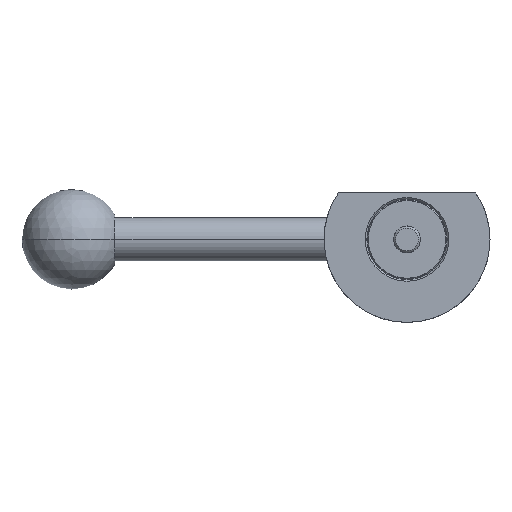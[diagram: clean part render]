
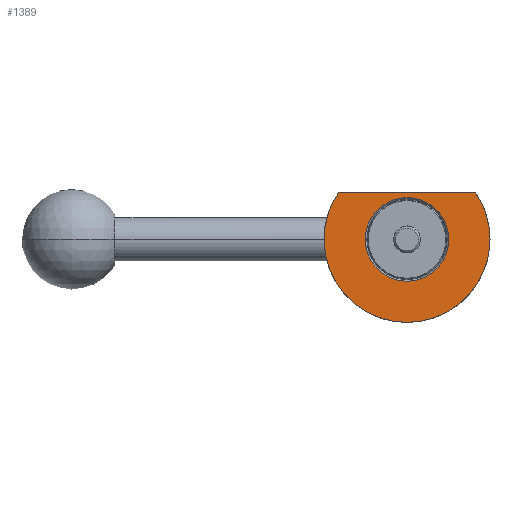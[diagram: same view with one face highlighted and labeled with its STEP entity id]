
A CAD part, front view. The second image highlights one B-rep face of the part: STEP entity #1389.
In plain terms, the highlighted planar face has unit normal (0, -1, 0).
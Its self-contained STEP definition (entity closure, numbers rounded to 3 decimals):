
#59 = DIRECTION ( 'NONE',  ( 0., 1., 0. ) ) ;
#72 = VERTEX_POINT ( 'NONE', #1268 ) ;
#88 = EDGE_CURVE ( 'NONE', #1951, #1200, #1661, .T. ) ;
#157 = ORIENTED_EDGE ( 'NONE', *, *, #88, .T. ) ;
#166 = CARTESIAN_POINT ( 'NONE',  ( 0., -12., 0. ) ) ;
#171 = DIRECTION ( 'NONE',  ( 0., 1., 0. ) ) ;
#235 = ORIENTED_EDGE ( 'NONE', *, *, #702, .T. ) ;
#315 = DIRECTION ( 'NONE',  ( -1., 0., 0. ) ) ;
#353 = CIRCLE ( 'NONE', #1811, 12.6 ) ;
#372 = EDGE_CURVE ( 'NONE', #407, #443, #716, .T. ) ;
#377 = CARTESIAN_POINT ( 'NONE',  ( 0., -12., 0. ) ) ;
#381 = AXIS2_PLACEMENT_3D ( 'NONE', #1922, #59, #991 ) ;
#384 = LINE ( 'NONE', #1031, #2004 ) ;
#393 = EDGE_CURVE ( 'NONE', #72, #407, #1325, .T. ) ;
#407 = VERTEX_POINT ( 'NONE', #507 ) ;
#443 = VERTEX_POINT ( 'NONE', #1500 ) ;
#472 = DIRECTION ( 'NONE',  ( 0., 1., 0. ) ) ;
#507 = CARTESIAN_POINT ( 'NONE',  ( 25., -12., 0. ) ) ;
#546 = EDGE_CURVE ( 'NONE', #443, #1705, #1220, .T. ) ;
#601 = ORIENTED_EDGE ( 'NONE', *, *, #546, .F. ) ;
#647 = CARTESIAN_POINT ( 'NONE',  ( -12.6, -12., 0. ) ) ;
#702 = EDGE_CURVE ( 'NONE', #72, #1705, #384, .T. ) ;
#716 = CIRCLE ( 'NONE', #1254, 25. ) ;
#733 = AXIS2_PLACEMENT_3D ( 'NONE', #1891, #472, #315 ) ;
#819 = EDGE_CURVE ( 'NONE', #1200, #1951, #353, .T. ) ;
#928 = PLANE ( 'NONE',  #1526 ) ;
#950 = CARTESIAN_POINT ( 'NONE',  ( 12.6, -12., 0. ) ) ;
#991 = DIRECTION ( 'NONE',  ( -1., 0., 0. ) ) ;
#1031 = CARTESIAN_POINT ( 'NONE',  ( -12.6, -12., 14. ) ) ;
#1141 = CARTESIAN_POINT ( 'NONE',  ( 0., -12., 0. ) ) ;
#1176 = ORIENTED_EDGE ( 'NONE', *, *, #819, .T. ) ;
#1200 = VERTEX_POINT ( 'NONE', #950 ) ;
#1220 = CIRCLE ( 'NONE', #1454, 25. ) ;
#1254 = AXIS2_PLACEMENT_3D ( 'NONE', #377, #1302, #1602 ) ;
#1268 = CARTESIAN_POINT ( 'NONE',  ( 20.712, -12., 14. ) ) ;
#1302 = DIRECTION ( 'NONE',  ( 0., 1., 0. ) ) ;
#1321 = CARTESIAN_POINT ( 'NONE',  ( -20.712, -12., 14. ) ) ;
#1325 = CIRCLE ( 'NONE', #381, 25. ) ;
#1332 = DIRECTION ( 'NONE',  ( -1., 0., 0. ) ) ;
#1389 = ADVANCED_FACE ( 'NONE', ( #1414, #1428 ), #928, .T. ) ;
#1414 = FACE_BOUND ( 'NONE', #1620, .T. ) ;
#1428 = FACE_OUTER_BOUND ( 'NONE', #1566, .T. ) ;
#1439 = DIRECTION ( 'NONE',  ( 1., 0., 0. ) ) ;
#1454 = AXIS2_PLACEMENT_3D ( 'NONE', #166, #2021, #1720 ) ;
#1500 = CARTESIAN_POINT ( 'NONE',  ( -25., -12., 0. ) ) ;
#1514 = ORIENTED_EDGE ( 'NONE', *, *, #372, .F. ) ;
#1526 = AXIS2_PLACEMENT_3D ( 'NONE', #1871, #1589, #1439 ) ;
#1566 = EDGE_LOOP ( 'NONE', ( #2032, #235, #601, #1514 ) ) ;
#1589 = DIRECTION ( 'NONE',  ( 0., -1., 0. ) ) ;
#1602 = DIRECTION ( 'NONE',  ( -1., 0., 0. ) ) ;
#1620 = EDGE_LOOP ( 'NONE', ( #1176, #157 ) ) ;
#1661 = CIRCLE ( 'NONE', #733, 12.6 ) ;
#1705 = VERTEX_POINT ( 'NONE', #1321 ) ;
#1720 = DIRECTION ( 'NONE',  ( -1., 0., 0. ) ) ;
#1764 = DIRECTION ( 'NONE',  ( -1., 0., 0. ) ) ;
#1811 = AXIS2_PLACEMENT_3D ( 'NONE', #1141, #171, #1764 ) ;
#1871 = CARTESIAN_POINT ( 'NONE',  ( -12.6, -12., 0. ) ) ;
#1891 = CARTESIAN_POINT ( 'NONE',  ( 0., -12., 0. ) ) ;
#1922 = CARTESIAN_POINT ( 'NONE',  ( 0., -12., 0. ) ) ;
#1951 = VERTEX_POINT ( 'NONE', #647 ) ;
#2004 = VECTOR ( 'NONE', #1332, 1000. ) ;
#2021 = DIRECTION ( 'NONE',  ( 0., 1., 0. ) ) ;
#2032 = ORIENTED_EDGE ( 'NONE', *, *, #393, .F. ) ;
